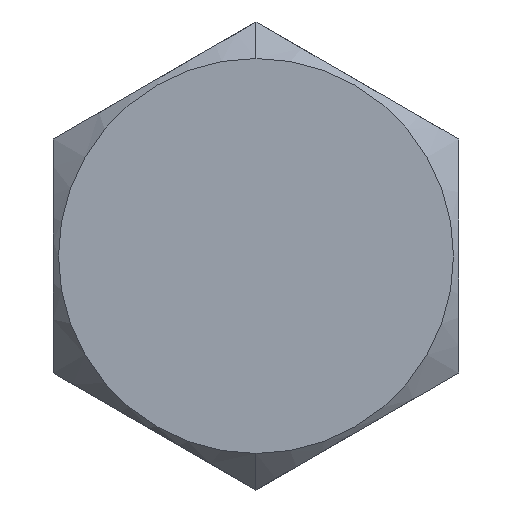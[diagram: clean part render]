
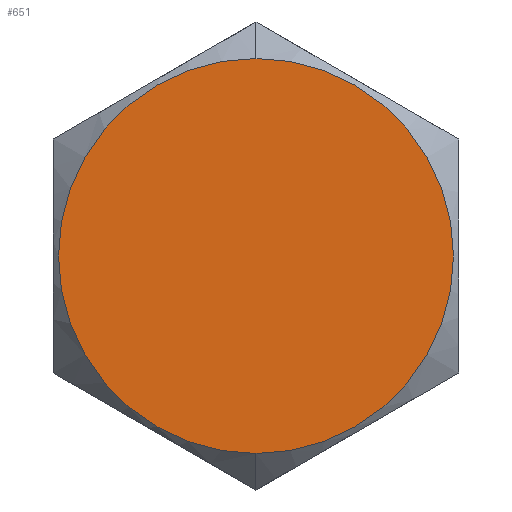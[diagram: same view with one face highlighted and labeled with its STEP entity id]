
A CAD part, left-side view. The second image highlights one B-rep face of the part: STEP entity #651.
In plain terms, the highlighted planar face has unit normal (-1, 0, 0).
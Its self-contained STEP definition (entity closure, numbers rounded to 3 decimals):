
#9 = DIRECTION ( 'NONE',  ( 1., 0., 0. ) ) ;
#49 = AXIS2_PLACEMENT_3D ( 'NONE', #137, #377, #272 ) ;
#137 = CARTESIAN_POINT ( 'NONE',  ( 0., 0., 0. ) ) ;
#181 = CARTESIAN_POINT ( 'NONE',  ( 0., 0., -4.874 ) ) ;
#183 = DIRECTION ( 'NONE',  ( 1., 0., 0. ) ) ;
#248 = PLANE ( 'NONE',  #551 ) ;
#252 = DIRECTION ( 'NONE',  ( 0., 0., -1. ) ) ;
#272 = DIRECTION ( 'NONE',  ( 0., 0., -1. ) ) ;
#283 = EDGE_LOOP ( 'NONE', ( #768, #565 ) ) ;
#322 = CARTESIAN_POINT ( 'NONE',  ( 0., 0., 4.874 ) ) ;
#361 = EDGE_CURVE ( 'NONE', #508, #676, #794, .T. ) ;
#377 = DIRECTION ( 'NONE',  ( 1., 0., 0. ) ) ;
#463 = CIRCLE ( 'NONE', #783, 4.874 ) ;
#466 = FACE_OUTER_BOUND ( 'NONE', #283, .T. ) ;
#498 = CARTESIAN_POINT ( 'NONE',  ( 0., 0., 0. ) ) ;
#508 = VERTEX_POINT ( 'NONE', #322 ) ;
#551 = AXIS2_PLACEMENT_3D ( 'NONE', #498, #183, #252 ) ;
#565 = ORIENTED_EDGE ( 'NONE', *, *, #361, .F. ) ;
#635 = CARTESIAN_POINT ( 'NONE',  ( 0., 0., 0. ) ) ;
#651 = ADVANCED_FACE ( 'NONE', ( #466 ), #248, .F. ) ;
#676 = VERTEX_POINT ( 'NONE', #181 ) ;
#701 = DIRECTION ( 'NONE',  ( 0., 0., -1. ) ) ;
#768 = ORIENTED_EDGE ( 'NONE', *, *, #769, .F. ) ;
#769 = EDGE_CURVE ( 'NONE', #676, #508, #463, .T. ) ;
#783 = AXIS2_PLACEMENT_3D ( 'NONE', #635, #9, #701 ) ;
#794 = CIRCLE ( 'NONE', #49, 4.874 ) ;
